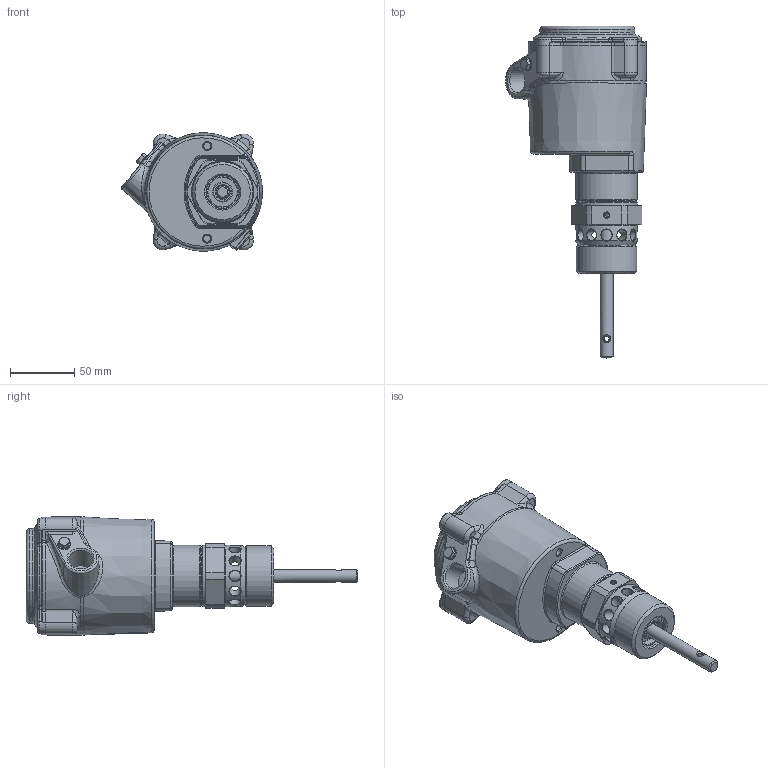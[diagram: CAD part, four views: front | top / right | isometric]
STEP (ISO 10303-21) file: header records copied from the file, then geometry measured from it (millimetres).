
FILE_DESCRIPTION(/* description */ (''),/* implementation_level */ '2;1');
FILE_NAME(/* name */ '\\Srvgest\camlogic\TECNICO\Inventor\Step\2_STEP\PFG09\PFG-09 Z.stp',/* time_stamp */ '2021-10-27T16:06:35+02:00',/* author */ ('nicola.ruozzi'),/* organization */ (''),/* preprocessor_version */ 'ST-DEVELOPER v18.1',/* originating_system */ 'Autodesk Inventor 2022',/* authorisation */ '');
FILE_SCHEMA (('AUTOMOTIVE_DESIGN { 1 0 10303 214 3 1 1 }'));
Length unit declared in the file: millimetre
Products named in the file (1): PFG-09 Z1
Bounding box: 109.52 x 257.94 x 91.98 mm (x, y, z)
Volume: 824054.1 mm3; surface area: 68762.3 mm2
Topology: 1 solids, 1 shells, 618 faces, 1671 edges, 1047 vertices
Faces by surface type: plane 198, cylinder 163, cone 109, bspline 91, torus 48, sphere 9
Full cylindrical faces by diameter (mm): 4.134 x1, 5.55 x2, 6.88 x1, 8.5 x12, 10 x3, 10.8 x4, 14.2 x1, 18.631 x1, 23.5 x1, 26 x1, 47 x1, 47.8 x2, 47.803 x1
Entity records: 23975 total; most frequent: CARTESIAN_POINT 8326, ORIENTED_EDGE 3322, DIRECTION 2993, EDGE_CURVE 1661, AXIS2_PLACEMENT_3D 1209, VERTEX_POINT 1047, EDGE_LOOP 648, FACE_OUTER_BOUND 618
